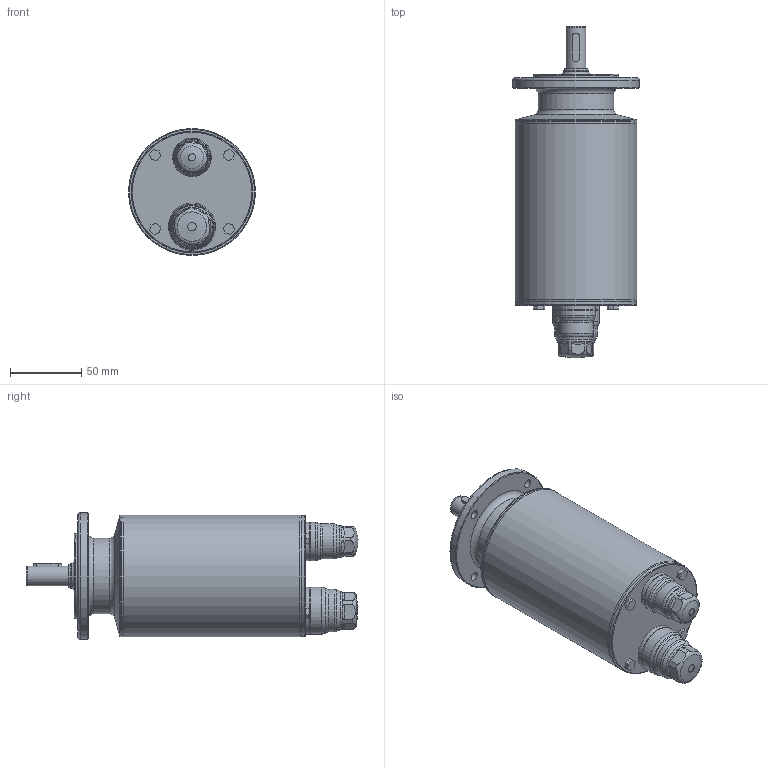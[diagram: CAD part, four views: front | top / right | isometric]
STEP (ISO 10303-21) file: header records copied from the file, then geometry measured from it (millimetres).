
FILE_DESCRIPTION((''),'2;1');
FILE_NAME('C:\Autodesk Vault\AUTODESK_VAULT\CAD\000-FERTIG Motors\EM-Motoren\EM070\_Gesamtbaugruppen\Step\HD\AM8832-0x00-xxxx_14.02.2013.stp','2013-02-14T09:14:28',('kathrinV'),(''),'Autodesk Inventor 2013','Autodesk Inventor 2013','');
FILE_SCHEMA(('AUTOMOTIVE_DESIGN { 1 0 10303 214 1 1 1 1 }'));
Length unit declared in the file: millimetre
Products named in the file (6): EM070-HD-VM; EM070-HD-VM-00; EM070-MB0-R-HD-VM; M16-HD-VM; M20-HD-VM; DIN 6885-A5x5x20
Assembly tree (5 placements, depth 3):
  EM070-HD-VM
    EM070-HD-VM-00
      EM070-MB0-R-HD-VM
      M16-HD-VM
      M20-HD-VM
    DIN 6885-A5x5x20
Bounding box: 89 x 232.87 x 89 mm (x, y, z)
Volume: 892073.3 mm3; surface area: 69652.8 mm2
Topology: 4 solids, 4 shells, 145 faces, 350 edges, 224 vertices
Faces by surface type: plane 63, cylinder 37, torus 23, cone 16, bspline 6
Full cylindrical faces by diameter (mm): 5 x1, 6 x5, 14 x1, 16 x1, 17 x1, 20 x1, 22 x1, 24.5 x1, 27 x2, 30 x1, 33 x2, 53 x1, 60 x1, 84.8 x1, 85 x2, 89 x1
Entity records: 5072 total; most frequent: CARTESIAN_POINT 1740, DIRECTION 632, ORIENTED_EDGE 556, EDGE_CURVE 278, AXIS2_PLACEMENT_3D 258, EDGE_LOOP 226, VERTEX_POINT 214, FACE_OUTER_BOUND 145
